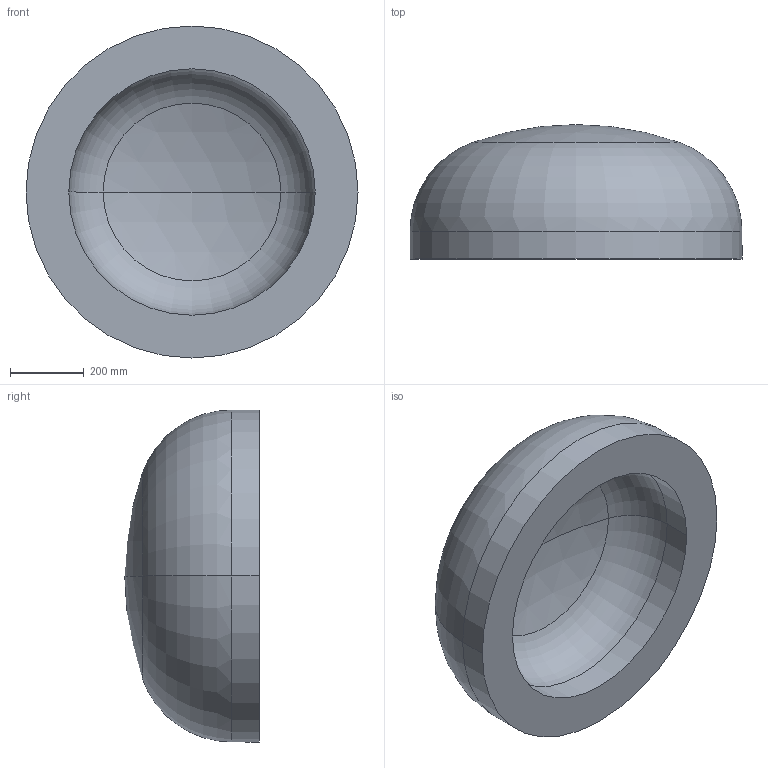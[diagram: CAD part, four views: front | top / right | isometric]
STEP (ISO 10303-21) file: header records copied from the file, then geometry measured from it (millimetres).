
FILE_DESCRIPTION (( 'STEP AP203' ), '1' );
FILE_NAME ('DIN 28013 Korbbogenform_-_Boden DIN 28013 - 900 x 75 - I - s=116.step', '2016-07-01T08:39:54', ( '' ), ( '' ), 'SwSTEP 2.0', 'SolidWorks 2013', '' );
FILE_SCHEMA (( 'CONFIG_CONTROL_DESIGN' ));
Length unit declared in the file: millimetre
Products named in the file (1): DIN 28013 Korbbogenform_-_Boden DIN 28013 - 900 x 75 - I - s=116
Bounding box: 900 x 364.41 x 900 mm (x, y, z)
Volume: 109012007.2 mm3; surface area: 2193408.3 mm2
Topology: 1 solids, 1 shells, 13 faces, 24 edges, 14 vertices
Faces by surface type: torus 4, cylinder 4, sphere 4, plane 1
Entity records: 407 total; most frequent: DIRECTION 72, CARTESIAN_POINT 52, ORIENTED_EDGE 48, AXIS2_PLACEMENT_3D 34, EDGE_CURVE 24, CIRCLE 20, VERTEX_POINT 14, EDGE_LOOP 14
